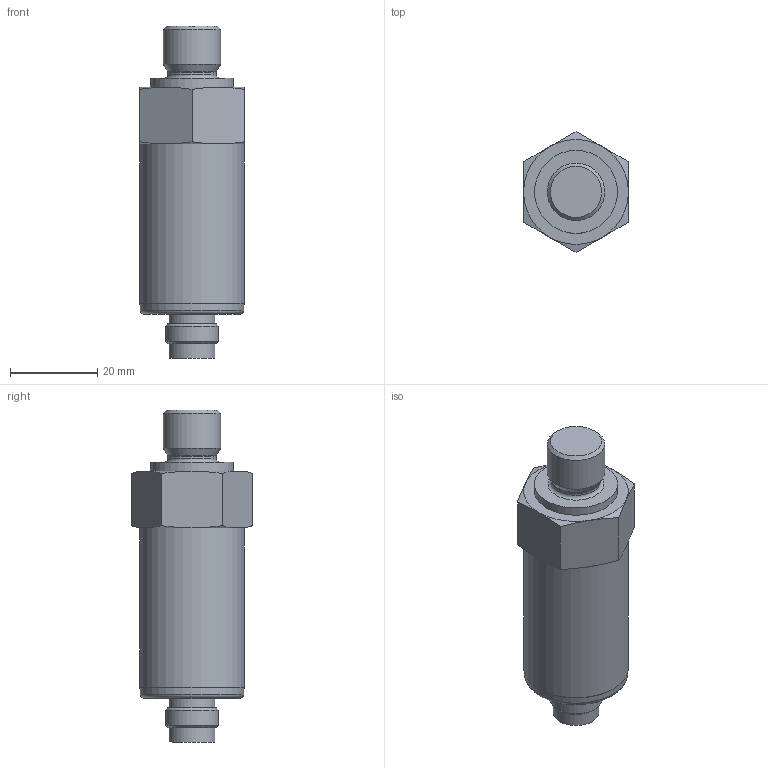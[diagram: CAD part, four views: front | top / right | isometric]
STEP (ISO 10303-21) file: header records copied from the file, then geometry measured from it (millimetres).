
FILE_DESCRIPTION(/* description */ (''),/* implementation_level */ '2;1');
FILE_NAME(/* name */ 'C:\daten\BDS inventor\17\17.600 G-xxxx-R-x-x-M00-300-x-882.stp',/* time_stamp */ '2020-10-02T14:01:33+02:00',/* author */ ('CZ1067'),/* organization */ (''),/* preprocessor_version */ 'ST-DEVELOPER v16.5',/* originating_system */ 'Autodesk Inventor 2017',/* authorisation */ '');
FILE_SCHEMA (('AUTOMOTIVE_DESIGN { 1 0 10303 214 3 1 1 }'));
Length unit declared in the file: millimetre
Products named in the file (1): 17.600 G-xxxx-R-x-x-M00-300-x-882
Bounding box: 24 x 27.71 x 76 mm (x, y, z)
Volume: 20674.8 mm3; surface area: 10758.7 mm2
Topology: 1 solids, 12 shells, 132 faces, 278 edges, 172 vertices
Faces by surface type: plane 65, cylinder 30, cone 25, bspline 8, torus 4
Full cylindrical faces by diameter (mm): 1 x1, 4.45 x1, 10.5 x2, 11.2 x1, 12 x1, 13.16 x1, 19 x1, 22.3 x8, 22.4 x2, 22.6 x9, 24 x1
Entity records: 3510 total; most frequent: CARTESIAN_POINT 802, DIRECTION 493, ORIENTED_EDGE 458, EDGE_CURVE 222, EDGE_LOOP 201, AXIS2_PLACEMENT_3D 190, VERTEX_POINT 163, STYLED_ITEM 133
